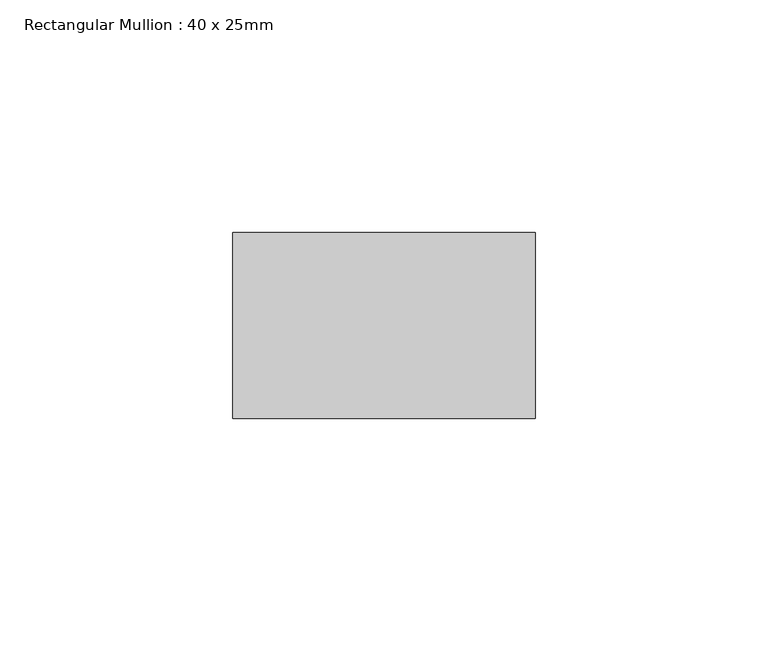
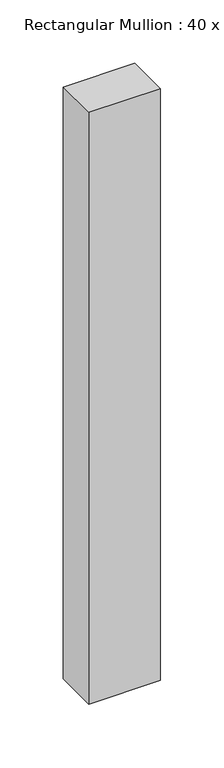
"""IFC4 building model written with IfcOpenShell, lengths in millimetres: member geometry, Rectangular Mullion : 40 x 25mm."""

from ifc_helpers import new_model, si_unit, frame, origin, place, context, project, spatial, polyline, outline, extrude, source, transform, mapped, element, save


def rectangular_mullion_40_x_25mm_ab499a24(model_context):
    return source(origin(), model_context, "Body", "SweptSolid", [
        extrude(outline(polyline([(40.0, -20.0), (40.0, -60.0), (-25.0, -60.0), (-25.0, -20.0), (40.0, -20.0)])), frame((0.0, 0.0, -570.0), z_axis=(0.0, 0.0, 1.0), x_axis=(1.0, 0.0, 0.0)), (0.0, 0.0, 1.0), 570.0),
    ])


if __name__ == "__main__":
    model = new_model("IFC4")
    model_context = context("Model", 3, world=origin())
    ifc_project = project(units=[si_unit("LENGTHUNIT", "METRE", prefix="MILLI")], contexts=[model_context])
    site = spatial("IfcSite", under=ifc_project)
    building = spatial("IfcBuilding", under=site)
    placement = place(None, origin())
    rectangular_mullion_40_x_25mm_shape = rectangular_mullion_40_x_25mm_ab499a24(model_context)
    element("IfcMember", 1, ObjectType="Rectangular Mullion : 40 x 25mm", at=placement, inside=building, context=model_context, shape_type="MappedRepresentation", body=[
        mapped(rectangular_mullion_40_x_25mm_shape, transform((0.0, 0.0, 0.0), x_axis=(1.0, 0.0, 0.0), y_axis=(0.0, 1.0, 0.0), z_axis=(0.0, 0.0, 1.0))),
    ])
    save(model, "model.ifc")
